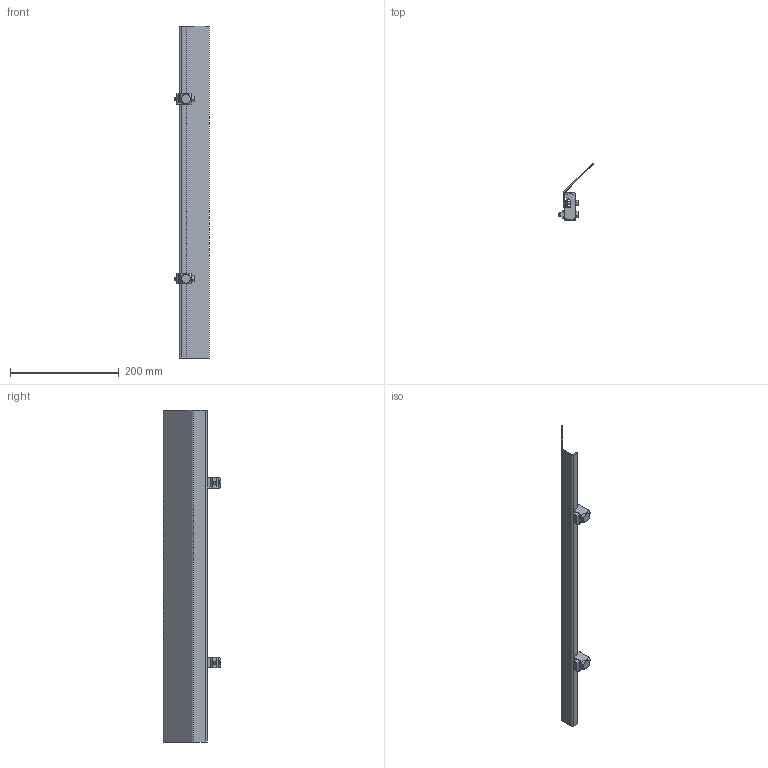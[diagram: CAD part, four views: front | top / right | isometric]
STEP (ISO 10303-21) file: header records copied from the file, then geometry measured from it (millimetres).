
FILE_DESCRIPTION (( 'STEP AP203' ), '1' );
FILE_NAME ('280802M.STEP', '2021-09-08T17:33:51', ( '' ), ( '' ), 'SwSTEP 2.0', 'SolidWorks 2019', '' );
FILE_SCHEMA (( 'CONFIG_CONTROL_DESIGN' ));
Length unit declared in the file: inch
Products named in the file (9): 807-2005; 9206XXM_920618M; 207128; 639971M; 280802M; 9206XXM_920630M; 207127-LLLLL_207127-02400; Assem3^Assem2
Assembly tree (13 placements, depth 3):
  280802M
    207127-LLLLL_207127-02400
    Assem3^Assem2
      639971M
      9206XXM_920618M
      9206XXM_920630M
      807-2005
      207128
    Assem3^Assem2
      639971M
      9206XXM_920618M
      9206XXM_920630M
      807-2005
      207128
Bounding box: 62.88 x 105.14 x 609.6 mm (x, y, z)
Volume: 167667.4 mm3; surface area: 157022 mm2
Topology: 11 solids, 11 shells, 278 faces, 626 edges, 388 vertices
Faces by surface type: plane 144, cylinder 70, cone 60, bspline 4
Entity records: 5620 total; most frequent: CARTESIAN_POINT 1145, DIRECTION 735, ORIENTED_EDGE 670, EDGE_CURVE 335, AXIS2_PLACEMENT_3D 268, VERTEX_POINT 206, LINE 199, VECTOR 199
